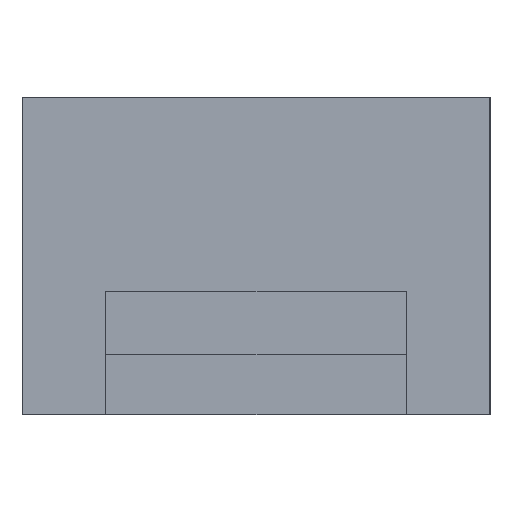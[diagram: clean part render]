
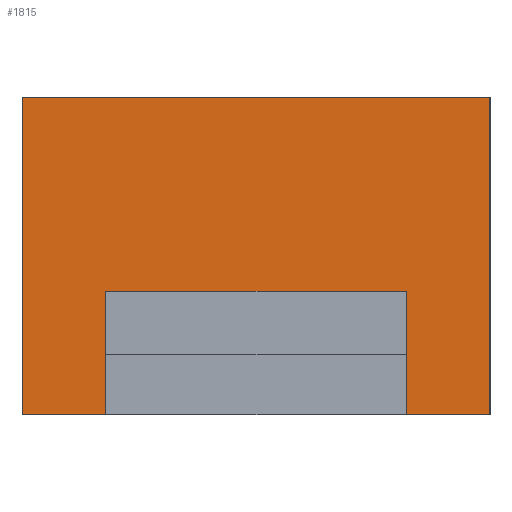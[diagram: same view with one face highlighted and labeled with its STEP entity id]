
A CAD part, left-side view. The second image highlights one B-rep face of the part: STEP entity #1815.
In plain terms, the highlighted planar face has unit normal (-1, 0, 0).
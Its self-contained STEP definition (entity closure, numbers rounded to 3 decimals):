
#1815 = ADVANCED_FACE('',(#1816),#1830,.F.);
#1816 = FACE_BOUND('',#1817,.F.);
#1817 = EDGE_LOOP('',(#1818,#1853,#1881,#1909,#1935,#1961,#1987,#2010));
#1818 = ORIENTED_EDGE('',*,*,#1819,.F.);
#1819 = EDGE_CURVE('',#1820,#1822,#1824,.T.);
#1820 = VERTEX_POINT('',#1821);
#1821 = CARTESIAN_POINT('',(0.18,0.,0.95));
#1822 = VERTEX_POINT('',#1823);
#1823 = CARTESIAN_POINT('',(0.18,1.4,0.95));
#1824 = SURFACE_CURVE('',#1825,(#1829,#1841),.PCURVE_S1.);
#1825 = LINE('',#1826,#1827);
#1826 = CARTESIAN_POINT('',(0.18,0.,0.95));
#1827 = VECTOR('',#1828,1.);
#1828 = DIRECTION('',(0.,1.,0.));
#1829 = PCURVE('',#1830,#1835);
#1830 = PLANE('',#1831);
#1831 = AXIS2_PLACEMENT_3D('',#1832,#1833,#1834);
#1832 = CARTESIAN_POINT('',(0.18,0.,0.));
#1833 = DIRECTION('',(1.,0.,0.));
#1834 = DIRECTION('',(0.,0.,1.));
#1835 = DEFINITIONAL_REPRESENTATION('',(#1836),#1840);
#1836 = LINE('',#1837,#1838);
#1837 = CARTESIAN_POINT('',(0.95,0.));
#1838 = VECTOR('',#1839,1.);
#1839 = DIRECTION('',(0.,-1.));
#1840 = ( GEOMETRIC_REPRESENTATION_CONTEXT(2) 
PARAMETRIC_REPRESENTATION_CONTEXT() REPRESENTATION_CONTEXT('2D SPACE',''
  ) );
#1841 = PCURVE('',#1842,#1847);
#1842 = PLANE('',#1843);
#1843 = AXIS2_PLACEMENT_3D('',#1844,#1845,#1846);
#1844 = CARTESIAN_POINT('',(0.18,0.,0.95));
#1845 = DIRECTION('',(0.,0.,1.));
#1846 = DIRECTION('',(1.,0.,0.));
#1847 = DEFINITIONAL_REPRESENTATION('',(#1848),#1852);
#1848 = LINE('',#1849,#1850);
#1849 = CARTESIAN_POINT('',(0.,0.));
#1850 = VECTOR('',#1851,1.);
#1851 = DIRECTION('',(0.,1.));
#1852 = ( GEOMETRIC_REPRESENTATION_CONTEXT(2) 
PARAMETRIC_REPRESENTATION_CONTEXT() REPRESENTATION_CONTEXT('2D SPACE',''
  ) );
#1853 = ORIENTED_EDGE('',*,*,#1854,.F.);
#1854 = EDGE_CURVE('',#1855,#1820,#1857,.T.);
#1855 = VERTEX_POINT('',#1856);
#1856 = CARTESIAN_POINT('',(0.18,0.,0.));
#1857 = SURFACE_CURVE('',#1858,(#1862,#1869),.PCURVE_S1.);
#1858 = LINE('',#1859,#1860);
#1859 = CARTESIAN_POINT('',(0.18,0.,0.));
#1860 = VECTOR('',#1861,1.);
#1861 = DIRECTION('',(0.,0.,1.));
#1862 = PCURVE('',#1830,#1863);
#1863 = DEFINITIONAL_REPRESENTATION('',(#1864),#1868);
#1864 = LINE('',#1865,#1866);
#1865 = CARTESIAN_POINT('',(0.,0.));
#1866 = VECTOR('',#1867,1.);
#1867 = DIRECTION('',(1.,0.));
#1868 = ( GEOMETRIC_REPRESENTATION_CONTEXT(2) 
PARAMETRIC_REPRESENTATION_CONTEXT() REPRESENTATION_CONTEXT('2D SPACE',''
  ) );
#1869 = PCURVE('',#1870,#1875);
#1870 = PLANE('',#1871);
#1871 = AXIS2_PLACEMENT_3D('',#1872,#1873,#1874);
#1872 = CARTESIAN_POINT('',(0.18,0.,0.));
#1873 = DIRECTION('',(0.,1.,0.));
#1874 = DIRECTION('',(0.,0.,1.));
#1875 = DEFINITIONAL_REPRESENTATION('',(#1876),#1880);
#1876 = LINE('',#1877,#1878);
#1877 = CARTESIAN_POINT('',(0.,0.));
#1878 = VECTOR('',#1879,1.);
#1879 = DIRECTION('',(1.,0.));
#1880 = ( GEOMETRIC_REPRESENTATION_CONTEXT(2) 
PARAMETRIC_REPRESENTATION_CONTEXT() REPRESENTATION_CONTEXT('2D SPACE',''
  ) );
#1881 = ORIENTED_EDGE('',*,*,#1882,.T.);
#1882 = EDGE_CURVE('',#1855,#1883,#1885,.T.);
#1883 = VERTEX_POINT('',#1884);
#1884 = CARTESIAN_POINT('',(0.18,0.25,0.));
#1885 = SURFACE_CURVE('',#1886,(#1890,#1897),.PCURVE_S1.);
#1886 = LINE('',#1887,#1888);
#1887 = CARTESIAN_POINT('',(0.18,0.,0.));
#1888 = VECTOR('',#1889,1.);
#1889 = DIRECTION('',(0.,1.,0.));
#1890 = PCURVE('',#1830,#1891);
#1891 = DEFINITIONAL_REPRESENTATION('',(#1892),#1896);
#1892 = LINE('',#1893,#1894);
#1893 = CARTESIAN_POINT('',(0.,0.));
#1894 = VECTOR('',#1895,1.);
#1895 = DIRECTION('',(0.,-1.));
#1896 = ( GEOMETRIC_REPRESENTATION_CONTEXT(2) 
PARAMETRIC_REPRESENTATION_CONTEXT() REPRESENTATION_CONTEXT('2D SPACE',''
  ) );
#1897 = PCURVE('',#1898,#1903);
#1898 = PLANE('',#1899);
#1899 = AXIS2_PLACEMENT_3D('',#1900,#1901,#1902);
#1900 = CARTESIAN_POINT('',(0.18,0.,0.));
#1901 = DIRECTION('',(0.,0.,1.));
#1902 = DIRECTION('',(1.,0.,0.));
#1903 = DEFINITIONAL_REPRESENTATION('',(#1904),#1908);
#1904 = LINE('',#1905,#1906);
#1905 = CARTESIAN_POINT('',(0.,0.));
#1906 = VECTOR('',#1907,1.);
#1907 = DIRECTION('',(0.,1.));
#1908 = ( GEOMETRIC_REPRESENTATION_CONTEXT(2) 
PARAMETRIC_REPRESENTATION_CONTEXT() REPRESENTATION_CONTEXT('2D SPACE',''
  ) );
#1909 = ORIENTED_EDGE('',*,*,#1910,.T.);
#1910 = EDGE_CURVE('',#1883,#1911,#1913,.T.);
#1911 = VERTEX_POINT('',#1912);
#1912 = CARTESIAN_POINT('',(0.18,0.25,0.18));
#1913 = SURFACE_CURVE('',#1914,(#1918,#1924),.PCURVE_S1.);
#1914 = LINE('',#1915,#1916);
#1915 = CARTESIAN_POINT('',(0.18,0.25,0.));
#1916 = VECTOR('',#1917,1.);
#1917 = DIRECTION('',(0.,0.,1.));
#1918 = PCURVE('',#1830,#1919);
#1919 = DEFINITIONAL_REPRESENTATION('',(#1920),#1923);
#1920 = B_SPLINE_CURVE_WITH_KNOTS('',1,(#1921,#1922),.UNSPECIFIED.,.F.,
  .F.,(2,2),(0.,0.18),.PIECEWISE_BEZIER_KNOTS.);
#1921 = CARTESIAN_POINT('',(0.,-0.25));
#1922 = CARTESIAN_POINT('',(0.18,-0.25));
#1923 = ( GEOMETRIC_REPRESENTATION_CONTEXT(2) 
PARAMETRIC_REPRESENTATION_CONTEXT() REPRESENTATION_CONTEXT('2D SPACE',''
  ) );
#1924 = PCURVE('',#1925,#1930);
#1925 = PLANE('',#1926);
#1926 = AXIS2_PLACEMENT_3D('',#1927,#1928,#1929);
#1927 = CARTESIAN_POINT('',(0.,0.25,0.));
#1928 = DIRECTION('',(0.,1.,0.));
#1929 = DIRECTION('',(0.,0.,1.));
#1930 = DEFINITIONAL_REPRESENTATION('',(#1931),#1934);
#1931 = B_SPLINE_CURVE_WITH_KNOTS('',1,(#1932,#1933),.UNSPECIFIED.,.F.,
  .F.,(2,2),(0.,0.18),.PIECEWISE_BEZIER_KNOTS.);
#1932 = CARTESIAN_POINT('',(0.,0.18));
#1933 = CARTESIAN_POINT('',(0.18,0.18));
#1934 = ( GEOMETRIC_REPRESENTATION_CONTEXT(2) 
PARAMETRIC_REPRESENTATION_CONTEXT() REPRESENTATION_CONTEXT('2D SPACE',''
  ) );
#1935 = ORIENTED_EDGE('',*,*,#1936,.F.);
#1936 = EDGE_CURVE('',#1937,#1911,#1939,.T.);
#1937 = VERTEX_POINT('',#1938);
#1938 = CARTESIAN_POINT('',(0.18,1.15,0.18));
#1939 = SURFACE_CURVE('',#1940,(#1944,#1950),.PCURVE_S1.);
#1940 = LINE('',#1941,#1942);
#1941 = CARTESIAN_POINT('',(0.18,0.125,0.18));
#1942 = VECTOR('',#1943,1.);
#1943 = DIRECTION('',(0.,-1.,0.));
#1944 = PCURVE('',#1830,#1945);
#1945 = DEFINITIONAL_REPRESENTATION('',(#1946),#1949);
#1946 = B_SPLINE_CURVE_WITH_KNOTS('',1,(#1947,#1948),.UNSPECIFIED.,.F.,
  .F.,(2,2),(-1.025,-0.125),.PIECEWISE_BEZIER_KNOTS.);
#1947 = CARTESIAN_POINT('',(0.18,-1.15));
#1948 = CARTESIAN_POINT('',(0.18,-0.25));
#1949 = ( GEOMETRIC_REPRESENTATION_CONTEXT(2) 
PARAMETRIC_REPRESENTATION_CONTEXT() REPRESENTATION_CONTEXT('2D SPACE',''
  ) );
#1950 = PCURVE('',#1951,#1956);
#1951 = PLANE('',#1952);
#1952 = AXIS2_PLACEMENT_3D('',#1953,#1954,#1955);
#1953 = CARTESIAN_POINT('',(0.,0.25,0.18));
#1954 = DIRECTION('',(0.,0.,1.));
#1955 = DIRECTION('',(1.,0.,0.));
#1956 = DEFINITIONAL_REPRESENTATION('',(#1957),#1960);
#1957 = B_SPLINE_CURVE_WITH_KNOTS('',1,(#1958,#1959),.UNSPECIFIED.,.F.,
  .F.,(2,2),(-1.025,-0.125),.PIECEWISE_BEZIER_KNOTS.);
#1958 = CARTESIAN_POINT('',(0.18,0.9));
#1959 = CARTESIAN_POINT('',(0.18,0.));
#1960 = ( GEOMETRIC_REPRESENTATION_CONTEXT(2) 
PARAMETRIC_REPRESENTATION_CONTEXT() REPRESENTATION_CONTEXT('2D SPACE',''
  ) );
#1961 = ORIENTED_EDGE('',*,*,#1962,.F.);
#1962 = EDGE_CURVE('',#1963,#1937,#1965,.T.);
#1963 = VERTEX_POINT('',#1964);
#1964 = CARTESIAN_POINT('',(0.18,1.15,0.));
#1965 = SURFACE_CURVE('',#1966,(#1970,#1976),.PCURVE_S1.);
#1966 = LINE('',#1967,#1968);
#1967 = CARTESIAN_POINT('',(0.18,1.15,0.));
#1968 = VECTOR('',#1969,1.);
#1969 = DIRECTION('',(0.,0.,1.));
#1970 = PCURVE('',#1830,#1971);
#1971 = DEFINITIONAL_REPRESENTATION('',(#1972),#1975);
#1972 = B_SPLINE_CURVE_WITH_KNOTS('',1,(#1973,#1974),.UNSPECIFIED.,.F.,
  .F.,(2,2),(0.,0.18),.PIECEWISE_BEZIER_KNOTS.);
#1973 = CARTESIAN_POINT('',(0.,-1.15));
#1974 = CARTESIAN_POINT('',(0.18,-1.15));
#1975 = ( GEOMETRIC_REPRESENTATION_CONTEXT(2) 
PARAMETRIC_REPRESENTATION_CONTEXT() REPRESENTATION_CONTEXT('2D SPACE',''
  ) );
#1976 = PCURVE('',#1977,#1982);
#1977 = PLANE('',#1978);
#1978 = AXIS2_PLACEMENT_3D('',#1979,#1980,#1981);
#1979 = CARTESIAN_POINT('',(0.,1.15,0.));
#1980 = DIRECTION('',(0.,1.,0.));
#1981 = DIRECTION('',(0.,0.,1.));
#1982 = DEFINITIONAL_REPRESENTATION('',(#1983),#1986);
#1983 = B_SPLINE_CURVE_WITH_KNOTS('',1,(#1984,#1985),.UNSPECIFIED.,.F.,
  .F.,(2,2),(0.,0.18),.PIECEWISE_BEZIER_KNOTS.);
#1984 = CARTESIAN_POINT('',(0.,0.18));
#1985 = CARTESIAN_POINT('',(0.18,0.18));
#1986 = ( GEOMETRIC_REPRESENTATION_CONTEXT(2) 
PARAMETRIC_REPRESENTATION_CONTEXT() REPRESENTATION_CONTEXT('2D SPACE',''
  ) );
#1987 = ORIENTED_EDGE('',*,*,#1988,.T.);
#1988 = EDGE_CURVE('',#1963,#1989,#1991,.T.);
#1989 = VERTEX_POINT('',#1990);
#1990 = CARTESIAN_POINT('',(0.18,1.4,0.));
#1991 = SURFACE_CURVE('',#1992,(#1996,#2003),.PCURVE_S1.);
#1992 = LINE('',#1993,#1994);
#1993 = CARTESIAN_POINT('',(0.18,0.,0.));
#1994 = VECTOR('',#1995,1.);
#1995 = DIRECTION('',(0.,1.,0.));
#1996 = PCURVE('',#1830,#1997);
#1997 = DEFINITIONAL_REPRESENTATION('',(#1998),#2002);
#1998 = LINE('',#1999,#2000);
#1999 = CARTESIAN_POINT('',(0.,0.));
#2000 = VECTOR('',#2001,1.);
#2001 = DIRECTION('',(0.,-1.));
#2002 = ( GEOMETRIC_REPRESENTATION_CONTEXT(2) 
PARAMETRIC_REPRESENTATION_CONTEXT() REPRESENTATION_CONTEXT('2D SPACE',''
  ) );
#2003 = PCURVE('',#1898,#2004);
#2004 = DEFINITIONAL_REPRESENTATION('',(#2005),#2009);
#2005 = LINE('',#2006,#2007);
#2006 = CARTESIAN_POINT('',(0.,0.));
#2007 = VECTOR('',#2008,1.);
#2008 = DIRECTION('',(0.,1.));
#2009 = ( GEOMETRIC_REPRESENTATION_CONTEXT(2) 
PARAMETRIC_REPRESENTATION_CONTEXT() REPRESENTATION_CONTEXT('2D SPACE',''
  ) );
#2010 = ORIENTED_EDGE('',*,*,#2011,.T.);
#2011 = EDGE_CURVE('',#1989,#1822,#2012,.T.);
#2012 = SURFACE_CURVE('',#2013,(#2017,#2024),.PCURVE_S1.);
#2013 = LINE('',#2014,#2015);
#2014 = CARTESIAN_POINT('',(0.18,1.4,0.));
#2015 = VECTOR('',#2016,1.);
#2016 = DIRECTION('',(0.,0.,1.));
#2017 = PCURVE('',#1830,#2018);
#2018 = DEFINITIONAL_REPRESENTATION('',(#2019),#2023);
#2019 = LINE('',#2020,#2021);
#2020 = CARTESIAN_POINT('',(0.,-1.4));
#2021 = VECTOR('',#2022,1.);
#2022 = DIRECTION('',(1.,0.));
#2023 = ( GEOMETRIC_REPRESENTATION_CONTEXT(2) 
PARAMETRIC_REPRESENTATION_CONTEXT() REPRESENTATION_CONTEXT('2D SPACE',''
  ) );
#2024 = PCURVE('',#2025,#2030);
#2025 = PLANE('',#2026);
#2026 = AXIS2_PLACEMENT_3D('',#2027,#2028,#2029);
#2027 = CARTESIAN_POINT('',(0.18,1.4,0.));
#2028 = DIRECTION('',(0.,1.,0.));
#2029 = DIRECTION('',(0.,0.,1.));
#2030 = DEFINITIONAL_REPRESENTATION('',(#2031),#2035);
#2031 = LINE('',#2032,#2033);
#2032 = CARTESIAN_POINT('',(0.,0.));
#2033 = VECTOR('',#2034,1.);
#2034 = DIRECTION('',(1.,0.));
#2035 = ( GEOMETRIC_REPRESENTATION_CONTEXT(2) 
PARAMETRIC_REPRESENTATION_CONTEXT() REPRESENTATION_CONTEXT('2D SPACE',''
  ) );
